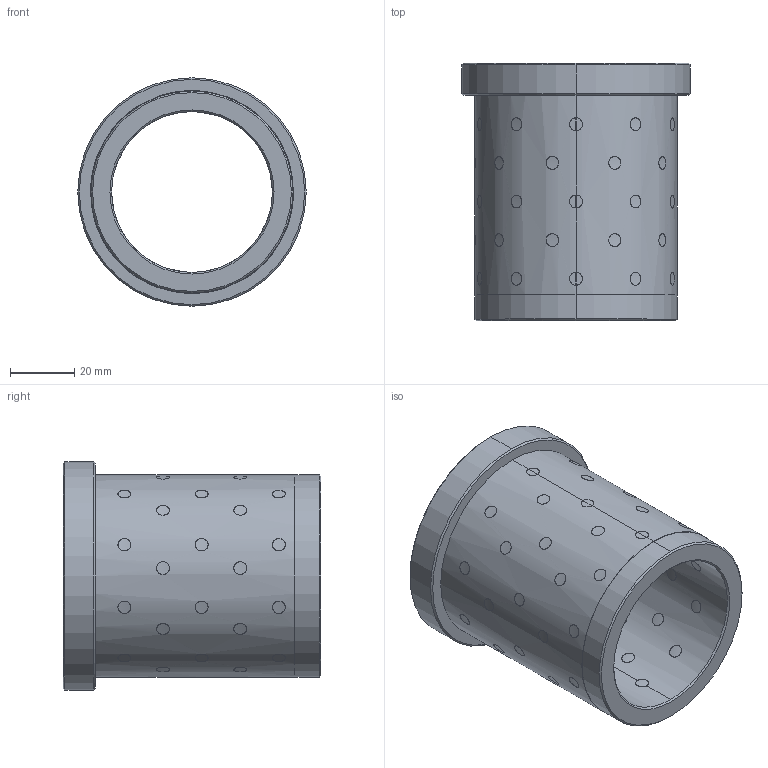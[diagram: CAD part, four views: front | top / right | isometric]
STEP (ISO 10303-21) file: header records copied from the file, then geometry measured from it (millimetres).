
FILE_DESCRIPTION (( 'STEP AP214' ), '1' );
FILE_NAME ('D30.03_5080.step', '2011-12-18T22:33:04', ( 'Dell' ), ( '' ), 'SwSTEP 2.0', 'SolidWorks 2010', '' );
FILE_SCHEMA (( 'AUTOMOTIVE_DESIGN' ));
Length unit declared in the file: millimetre
Products named in the file (1): D30.03_5080
Bounding box: 71 x 80 x 71 mm (x, y, z)
Volume: 101857.1 mm3; surface area: 45437 mm2
Topology: 101 solids, 101 shells, 536 faces, 1022 edges, 678 vertices
Faces by surface type: cylinder 520, cone 10, plane 4, bspline 2
Entity records: 29396 total; most frequent: CARTESIAN_POINT 18595, ORIENTED_EDGE 2044, DIRECTION 1468, EDGE_CURVE 1022, VERTEX_POINT 678, B_SPLINE_CURVE_WITH_KNOTS 650, EDGE_LOOP 628, AXIS2_PLACEMENT_3D 563
